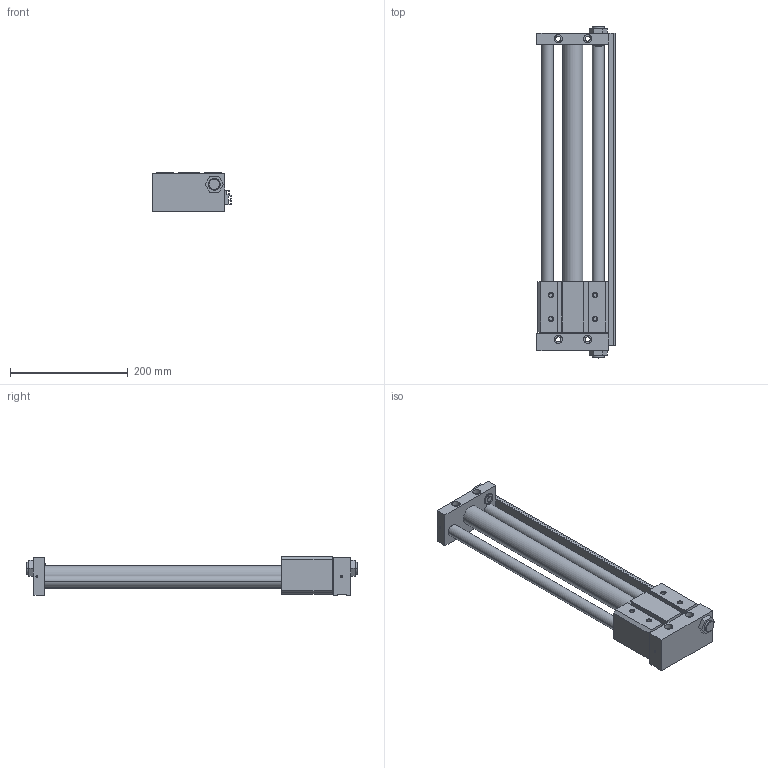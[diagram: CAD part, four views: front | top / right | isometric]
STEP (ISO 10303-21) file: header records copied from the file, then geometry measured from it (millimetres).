
FILE_DESCRIPTION((''),'2;1');
FILE_NAME('C:\Documents and Settings\Administrator\桌面\GYS\GYS32\GYSR32X400.stp','2012-03-06T20:17:56',('Administrator'),(''),'Autodesk Inventor 8','Autodesk Inventor 8','');
FILE_SCHEMA(('AUTOMOTIVE_DESIGN { 1 0 10303 214 1 1 1 1 }'));
Length unit declared in the file: millimetre
Products named in the file (3): GYSR32X400; GYS32X400; GYS32160X400
Assembly tree (2 placements, depth 2):
  GYSR32X400
    GYS32X400
    GYS32160X400
Bounding box: 132.5 x 563 x 66 mm (x, y, z)
Volume: 1654473.3 mm3; surface area: 259413.4 mm2
Topology: 2 solids, 2 shells, 291 faces, 770 edges, 504 vertices
Faces by surface type: plane 161, cylinder 96, cone 28, bspline 6
Entity records: 9200 total; most frequent: CARTESIAN_POINT 1644, DIRECTION 1598, ORIENTED_EDGE 1540, EDGE_CURVE 770, AXIS2_PLACEMENT_3D 538, VECTOR 522, LINE 522, VERTEX_POINT 504
